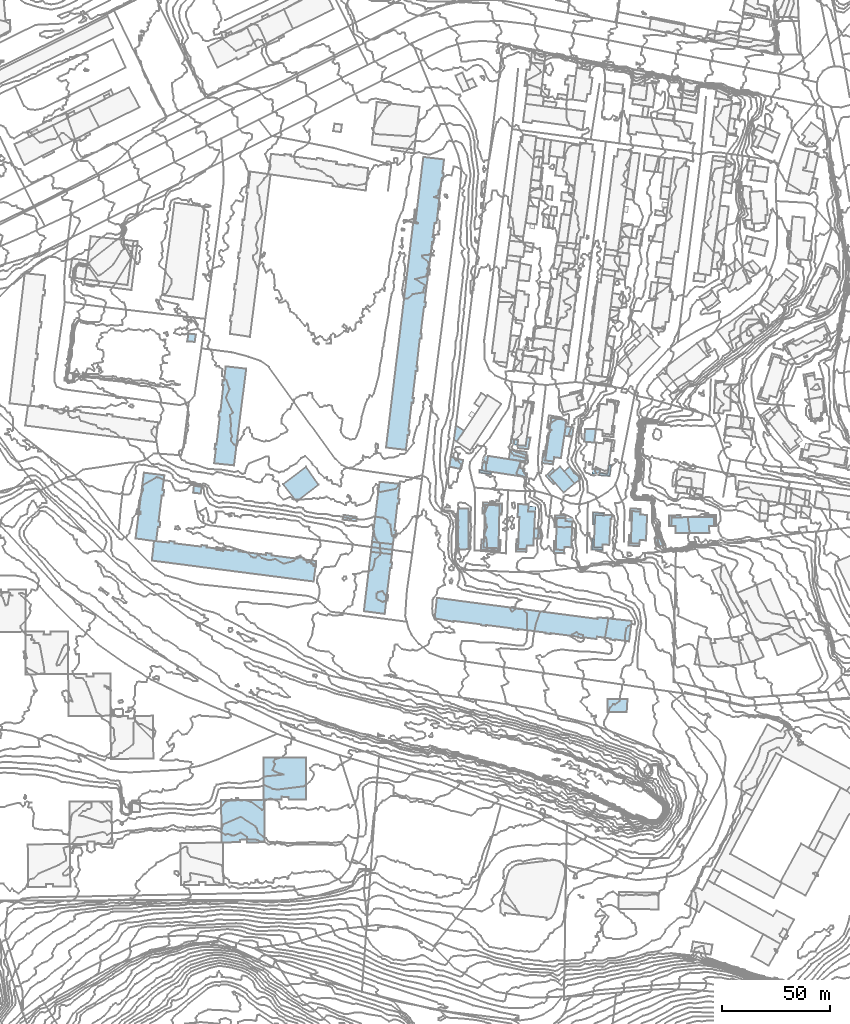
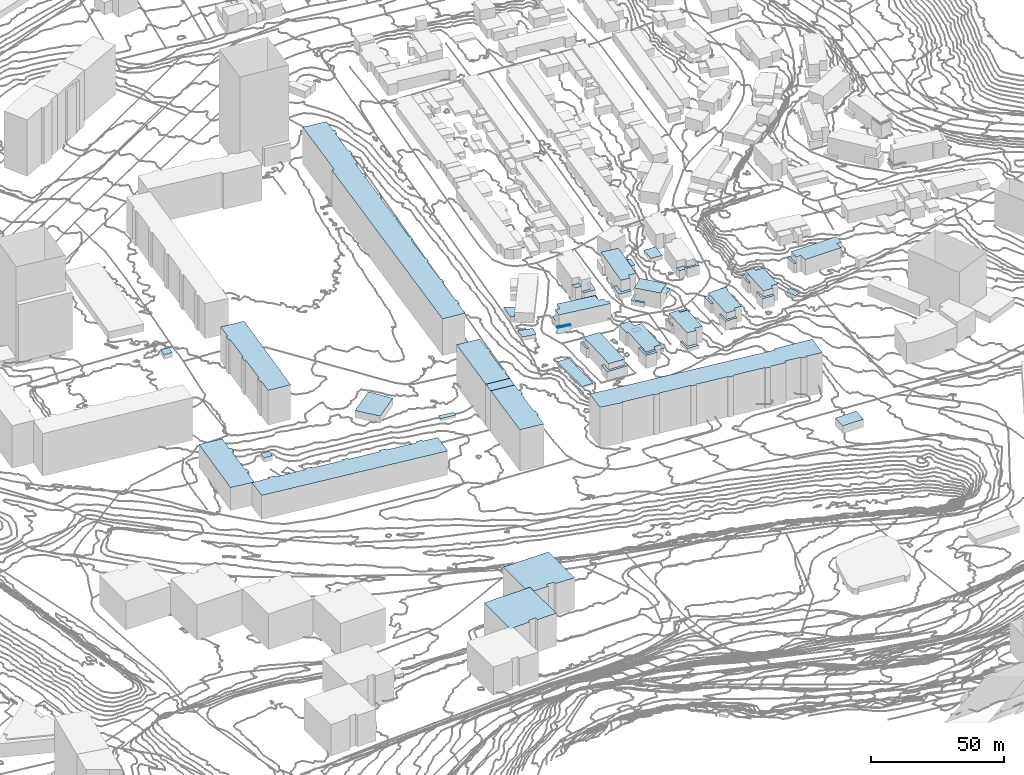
# Not in any storey, part 80 of 419: 53 roofs.
"""IFC2X3 model written with IfcOpenShell, lengths in metres."""

from ifc_helpers import new_model, si_unit, frame, origin_with_axes, place, context, subcontext, project, faceted_brep, element, save


model = new_model("IFC2X3")

# Units and contexts
model_context = context("Model", 3, precision=1e-05, world=origin_with_axes())
body_context = subcontext(model_context, "Body", "Model", "MODEL_VIEW")
ifc_project = project(units=[si_unit("AREAUNIT", "SQUARE_METRE"), si_unit("LENGTHUNIT", "METRE")], contexts=[model_context])

# Roofs
roof_1_placement = place(None, frame((531.4920204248, 540.9976909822, 34.6650009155), z_axis=(0.0, 0.0, 1.0), x_axis=(1.0, 0.0, 0.0)))
element("IfcRoof", 1, at=roof_1_placement, Name="Toiture 0", ShapeType="NOTDEFINED", context=body_context, shape_type="Brep", body=[
    faceted_brep([(0.1, 5.9000000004, 3.5349990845), (0.0, 0.0, 3.5349990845), (8.9, -0.0999999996, 3.5349990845), (9.2999999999, 5.9000000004, 3.5349990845)], [[[0, 1, 2]], [[2, 3, 0]]]),
])
roof_2_placement = place(None, frame((380.8920204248, 646.6976909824, 30.5800001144), z_axis=(0.0, 0.0, 1.0), x_axis=(1.0, 0.0, 0.0)))
element("IfcRoof", 2, at=roof_2_placement, Name="Toiture 0", ShapeType="NOTDEFINED", context=body_context, shape_type="Brep", body=[
    faceted_brep([(16.3999999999, -0.2000000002, 3.3199998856), (10.6, 8.1000000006, 3.3199998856), (0.0, 0.0, 3.3199998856), (6.3999999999, -8.0, 3.3199998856)], [[[0, 1, 2]], [[2, 3, 0]]]),
])
roof_3_placement = place(None, frame((487.0920204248, 667.5976909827, 35.5330013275), z_axis=(0.0, 0.0, 1.0), x_axis=(1.0, 0.0, 0.0)))
element("IfcRoof", 3, at=roof_3_placement, Name="Toiture 0", ShapeType="NOTDEFINED", context=body_context, shape_type="Brep", body=[
    faceted_brep([(0.1, -2.5, 6.1669986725), (2.6, -2.7999999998, 6.1669986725), (2.9, -0.4000000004, 6.1669986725), (0.0, 0.0, 6.1669986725)], [[[0, 1, 2]], [[2, 3, 0]]]),
])
roof_4_placement = place(None, frame((451.2920204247, 584.3976909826, 30.0220005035), z_axis=(0.0, 0.0, 1.0), x_axis=(1.0, 0.0, 0.0)))
element("IfcRoof", 4, at=roof_4_placement, Name="Toiture 0", ShapeType="NOTDEFINED", context=body_context, shape_type="Brep", body=[
    faceted_brep([(83.8, -9.7999999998, 18.4779994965), (90.2000000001, -10.7000000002, 18.4779994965), (91.4, -1.2000000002, 18.4779994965), (75.7000000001, 0.5, 18.4779994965), (75.7000000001, -0.2999999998, 18.4779994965), (1.0, 9.5, 18.4779994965), (0.0, 0.0, 18.4779994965), (8.7000000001, -1.5999999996, 18.4779994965), (8.8, -1.2000000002, 18.4779994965), (21.6000000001, -2.7999999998, 18.4779994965), (21.6000000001, -3.2000000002, 18.4779994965), (23.8, -3.5, 18.4779994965), (36.4, -4.7000000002, 18.4779994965), (36.4, -5.0999999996, 18.4779994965), (38.6000000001, -5.4000000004, 18.4779994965), (51.5, -6.5999999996, 18.4779994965), (51.5, -7.0, 18.4779994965), (53.7000000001, -7.2999999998, 18.4779994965), (66.5, -8.5, 18.4779994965), (66.5, -8.9000000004, 18.4779994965), (68.7000000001, -9.2000000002, 18.4779994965), (68.8, -8.7999999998, 18.4779994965), (75.1000000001, -9.5999999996, 18.4779994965), (75.3, -8.5, 18.4779994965), (81.6000000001, -9.4000000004, 18.4779994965), (81.5, -9.7999999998, 18.4779994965), (83.8, -10.2000000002, 18.4779994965), (23.9, -3.0999999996, 18.4779994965), (38.7000000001, -5.0, 18.4779994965), (53.8, -6.9000000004, 18.4779994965)], [[[0, 1, 2]], [[2, 3, 4]], [[4, 5, 6]], [[6, 7, 8]], [[9, 10, 11]], [[12, 13, 14]], [[15, 16, 17]], [[18, 19, 20]], [[21, 22, 23]], [[24, 25, 26]], [[0, 2, 4]], [[4, 6, 8]], [[9, 11, 27]], [[12, 14, 28]], [[15, 17, 29]], [[18, 20, 21]], [[24, 26, 0]], [[4, 8, 9]], [[9, 27, 12]], [[12, 28, 15]], [[15, 29, 18]], [[18, 21, 23]], [[24, 0, 4]], [[4, 9, 12]], [[15, 18, 23]], [[23, 24, 4]], [[4, 12, 15]], [[15, 23, 4]]]),
])
roof_5_placement = place(None, frame((511.9920204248, 629.4976909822, 37.3230004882), z_axis=(0.0, 0.0, 1.0), x_axis=(1.0, 0.0, 0.0)))
element("IfcRoof", 5, at=roof_5_placement, Name="Toiture 0", ShapeType="NOTDEFINED", context=body_context, shape_type="Brep", body=[
    faceted_brep([(0.0, 0.0, 5.9769995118), (3.2, -0.0999999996, 5.9769995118), (3.4, 1.5, 5.9769995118), (0.0, 1.5, 5.9769995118)], [[[0, 1, 2]], [[2, 3, 0]]]),
])
roof_6_placement = place(None, frame((418.3920204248, 587.6976909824, 28.7110006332), z_axis=(0.0, 0.0, 1.0), x_axis=(1.0, 0.0, 0.0)))
element("IfcRoof", 6, at=roof_6_placement, Name="Toiture 0", ShapeType="NOTDEFINED", context=body_context, shape_type="Brep", body=[
    faceted_brep([(13.0, 26.4000000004, 18.9889993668), (3.2999999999, 27.6000000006, 18.9889993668), (0.0, 0.0, 18.9889993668), (9.7, -1.2000000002, 18.9889993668), (10.3999999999, 5.1000000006, 18.9889993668), (11.0, 5.0, 18.9889993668), (11.2999999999, 7.6000000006, 18.9889993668), (12.2, 20.1000000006, 18.9889993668), (12.7999999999, 20.1000000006, 18.9889993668), (13.1, 22.6000000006, 18.9889993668), (12.5, 22.7000000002, 18.9889993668), (10.7, 7.6000000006, 18.9889993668)], [[[0, 1, 2]], [[2, 3, 4]], [[4, 5, 6]], [[7, 8, 9]], [[10, 0, 2]], [[2, 4, 6]], [[7, 9, 10]], [[2, 6, 11]], [[11, 7, 10]], [[10, 2, 11]]]),
])
roof_7_placement = place(None, frame((561.0920204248, 627.1976909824, 45.709199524), z_axis=(0.0, 0.0, 1.0), x_axis=(1.0, 0.0, 0.0)))
element("IfcRoof", 7, at=roof_7_placement, Name="Toiture 0", ShapeType="NOTDEFINED", context=body_context, shape_type="Brep", body=[
    faceted_brep([(0.1, 4.1000000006, 7.290800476), (0.0, 0.0, 7.290800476), (2.0, 0.1000000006, 7.290800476), (2.1, -3.2000000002, 7.290800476), (17.7, -3.0999999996, 7.290800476), (17.6, 0.0, 7.290800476), (19.8, 0.0, 7.290800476), (19.8, 4.2000000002, 7.290800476)], [[[0, 1, 2]], [[2, 3, 4]], [[5, 6, 7]], [[7, 0, 2]], [[2, 4, 5]], [[5, 7, 2]]]),
])
roof_8_placement = place(None, frame((542.2920204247, 619.2976909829, 41.3799995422), z_axis=(0.0, 0.0, 1.0), x_axis=(1.0, 0.0, 0.0)))
element("IfcRoof", 8, at=roof_8_placement, Name="Toiture 0", ShapeType="NOTDEFINED", context=body_context, shape_type="Brep", body=[
    faceted_brep([(0.0, 0.0, 7.4200004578), (4.0, -0.2000000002, 7.4200004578), (4.2000000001, 1.5, 7.4200004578), (7.1000000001, 1.2999999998, 7.4200004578), (7.6000000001, 13.0999999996, 7.4200004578), (4.4, 13.2999999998, 7.4200004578), (4.5, 14.5999999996, 7.4200004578), (0.7000000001, 14.8999999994, 7.4200004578)], [[[0, 1, 2]], [[2, 3, 4]], [[5, 6, 7]], [[7, 0, 2]], [[2, 4, 5]], [[5, 7, 2]]]),
])
roof_9_placement = place(None, frame((502.8920204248, 650.6976909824, 37.2302006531), z_axis=(0.0, 0.0, 1.0), x_axis=(1.0, 0.0, 0.0)))
element("IfcRoof", 9, at=roof_9_placement, Name="Toiture 0", ShapeType="NOTDEFINED", context=body_context, shape_type="Brep", body=[
    faceted_brep([(1.3999999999, -0.0999999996, 1.9697993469), (4.0, 2.2999999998, 1.9697993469), (3.3999999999, 3.2000000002, 1.9697993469), (0.0, 0.0, 1.9697993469), (3.5, -4.0, 1.9697993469), (4.2, -3.5, 1.9697993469)], [[[0, 1, 2]], [[3, 4, 5]], [[0, 2, 3]], [[3, 5, 0]]]),
])
roof_10_placement = place(None, frame((489.6920204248, 664.7976909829, 36.5316988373), z_axis=(0.0, 0.0, 1.0), x_axis=(1.0, 0.0, 0.0)))
element("IfcRoof", 10, at=roof_10_placement, Name="Toiture 0", ShapeType="NOTDEFINED", context=body_context, shape_type="Brep", body=[
    faceted_brep([(3.8, -0.3000000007, 2.9683011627), (0.0, 0.0, 2.9683011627), (0.3, -1.4000000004, 2.9683011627), (5.0, -1.9000000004, 2.9683011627), (6.0, 3.5, 2.9683011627), (4.4, 3.6999999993, 2.9683011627)], [[[0, 1, 2]], [[3, 4, 5]], [[0, 2, 3]], [[3, 5, 0]]]),
])
roof_11_placement = place(None, frame((541.2920204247, 618.1976909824, 41.4967990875), z_axis=(0.0, 0.0, 1.0), x_axis=(1.0, 0.0, 0.0)))
element("IfcRoof", 11, at=roof_11_placement, Name="Toiture 0", ShapeType="NOTDEFINED", context=body_context, shape_type="Brep", body=[
    faceted_brep([(4.9, -0.2999999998, 4.7032009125), (5.0, 0.9000000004, 4.7032009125), (1.0, 1.1000000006, 4.7032009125), (1.0, 5.0, 4.7032009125), (0.2000000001, 5.0, 4.7032009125), (0.0, 0.0, 4.7032009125)], [[[0, 1, 2]], [[2, 3, 4]], [[5, 0, 2]], [[2, 4, 5]]]),
])
roof_12_placement = place(None, frame((458.0920204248, 654.7976909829, 33.89060112), z_axis=(0.0, 0.0, 1.0), x_axis=(1.0, 0.0, 0.0)))
element("IfcRoof", 12, at=roof_12_placement, Name="Toiture 0", ShapeType="NOTDEFINED", context=body_context, shape_type="Brep", body=[
    faceted_brep([(0.7, 4.5, 1.70939888), (0.0, 0.0, 1.70939888), (5.5, -1.1000000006, 1.70939888), (6.4, 3.0, 1.70939888)], [[[0, 1, 2]], [[2, 3, 0]]]),
])
roof_13_placement = place(None, frame((524.0920204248, 616.2976909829, 38.8784992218), z_axis=(0.0, 0.0, 1.0), x_axis=(1.0, 0.0, 0.0)))
element("IfcRoof", 13, at=roof_13_placement, Name="Toiture 0", ShapeType="NOTDEFINED", context=body_context, shape_type="Brep", body=[
    faceted_brep([(5.0, -0.1000000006, 4.1215007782), (5.0, 1.0, 4.1215007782), (1.0, 1.0999999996, 4.1215007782), (1.2, 5.0999999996, 4.1215007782), (0.3, 5.1999999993, 4.1215007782), (0.0, 0.0, 4.1215007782)], [[[0, 1, 2]], [[2, 3, 4]], [[5, 0, 2]], [[2, 4, 5]]]),
])
roof_14_placement = place(None, frame((541.7920204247, 629.8976909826, 41.3649997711), z_axis=(0.0, 0.0, 1.0), x_axis=(1.0, 0.0, 0.0)))
element("IfcRoof", 14, at=roof_14_placement, Name="Toiture 0", ShapeType="NOTDEFINED", context=body_context, shape_type="Brep", body=[
    faceted_brep([(1.2000000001, 4.2999999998, 4.8350002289), (5.0, 4.0, 4.8350002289), (5.1000000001, 5.2999999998, 4.8350002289), (0.3, 5.5, 4.8350002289), (0.0, 0.0, 4.8350002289), (0.9, -0.2000000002, 4.8350002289)], [[[0, 1, 2]], [[3, 4, 5]], [[0, 2, 3]], [[3, 5, 0]]]),
])
roof_15_placement = place(None, frame((336.3920204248, 712.9976909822, 32.726300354), z_axis=(0.0, 0.0, 1.0), x_axis=(1.0, 0.0, 0.0)))
element("IfcRoof", 15, at=roof_15_placement, Name="Toiture 0", ShapeType="NOTDEFINED", context=body_context, shape_type="Brep", body=[
    faceted_brep([(0.6, 3.6000000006, 2.073699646), (0.0, 0.0, 2.073699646), (3.5, -0.2999999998, 2.073699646), (4.0, 3.2000000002, 2.073699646)], [[[0, 1, 2]], [[2, 3, 0]]]),
])
roof_16_placement = place(None, frame((489.0920204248, 615.4976909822, 34.1513998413), z_axis=(0.0, 0.0, 1.0), x_axis=(1.0, 0.0, 0.0)))
element("IfcRoof", 16, at=roof_16_placement, Name="Toiture 0", ShapeType="NOTDEFINED", context=body_context, shape_type="Brep", body=[
    faceted_brep([(0.9, 1.2000000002, 5.9486001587), (1.1, 5.8000000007, 5.9486001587), (0.1, 5.6000000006, 5.9486001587), (0.0, 0.0, 5.9486001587), (4.7, -0.1999999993, 5.9486001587), (4.8, 1.1000000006, 5.9486001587)], [[[0, 1, 2]], [[3, 4, 5]], [[0, 2, 3]], [[3, 5, 0]]]),
])
roof_17_placement = place(None, frame((485.6920204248, 658.2976909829, 34.2639987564), z_axis=(0.0, 0.0, 1.0), x_axis=(1.0, 0.0, 0.0)))
element("IfcRoof", 17, at=roof_17_placement, Name="Toiture 0", ShapeType="NOTDEFINED", context=body_context, shape_type="Brep", body=[
    faceted_brep([(0.7000000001, 4.3999999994, 3.9360012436), (0.0, 0.0, 3.9360012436), (7.6, -1.0, 3.9360012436), (8.3, 3.2999999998, 3.9360012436)], [[[0, 1, 2]], [[2, 3, 0]]]),
])
roof_18_placement = place(None, frame((520.6920204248, 666.3976909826, 40.8299991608), z_axis=(0.0, 0.0, 1.0), x_axis=(1.0, 0.0, 0.0)))
element("IfcRoof", 18, at=roof_18_placement, Name="Toiture 0", ShapeType="NOTDEFINED", context=body_context, shape_type="Brep", body=[
    faceted_brep([(4.7000000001, -0.4000000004, 1.8700008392), (5.4, 5.9000000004, 1.8700008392), (0.4, 6.0, 1.8700008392), (0.0, 0.0, 1.8700008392)], [[[0, 1, 2]], [[2, 3, 0]]]),
])
roof_19_placement = place(None, frame((524.3920204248, 651.4976909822, 40.9319988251), z_axis=(0.0, 0.0, 1.0), x_axis=(1.0, 0.0, 0.0)))
element("IfcRoof", 19, at=roof_19_placement, Name="Toiture 0", ShapeType="NOTDEFINED", context=body_context, shape_type="Brep", body=[
    faceted_brep([(2.7, 0.8000000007, 3.8680011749), (3.5, 0.5, 3.8680011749), (3.6, 1.9000000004, 3.8680011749), (0.1, 2.3000000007, 3.8680011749), (0.0, 0.0, 3.8680011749), (2.3999999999, -0.1999999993, 3.8680011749)], [[[0, 1, 2]], [[2, 3, 4]], [[4, 5, 0]], [[0, 2, 4]]]),
])
roof_20_placement = place(None, frame((511.4920204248, 669.1976909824, 37.2300003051), z_axis=(0.0, 0.0, 1.0), x_axis=(1.0, 0.0, 0.0)))
element("IfcRoof", 20, at=roof_20_placement, Name="Toiture 0", ShapeType="NOTDEFINED", context=body_context, shape_type="Brep", body=[
    faceted_brep([(4.2, 3.7999999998, 3.0699996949), (0.6, 4.4000000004, 3.0699996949), (0.0, 0.0, 3.0699996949), (3.6, -0.5, 3.0699996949)], [[[0, 1, 2]], [[2, 3, 0]]]),
])
roof_21_placement = place(None, frame((507.4920204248, 616.3976909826, 36.2219997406), z_axis=(0.0, 0.0, 1.0), x_axis=(1.0, 0.0, 0.0)))
element("IfcRoof", 21, at=roof_21_placement, Name="Toiture 0", ShapeType="NOTDEFINED", context=body_context, shape_type="Brep", body=[
    faceted_brep([(7.2, 0.9000000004, 7.2780002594), (7.7, 13.0, 7.2780002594), (4.5, 13.0999999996, 7.2780002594), (4.5, 14.5999999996, 7.2780002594), (0.5, 14.5999999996, 7.2780002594), (0.0, 0.0, 7.2780002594), (3.7999999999, -0.4000000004, 7.2780002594), (4.1, 1.2000000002, 7.2780002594)], [[[0, 1, 2]], [[2, 3, 4]], [[4, 5, 6]], [[7, 0, 2]], [[2, 4, 6]], [[6, 7, 2]]]),
])
roof_22_placement = place(None, frame((501.0920204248, 656.4976909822, 36.9775999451), z_axis=(0.0, 0.0, 1.0), x_axis=(1.0, 0.0, 0.0)))
element("IfcRoof", 22, at=roof_22_placement, Name="Toiture 0", ShapeType="NOTDEFINED", context=body_context, shape_type="Brep", body=[
    faceted_brep([(5.1, -0.5999999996, 2.2224000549), (5.3, 0.7000000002, 2.2224000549), (1.5, 1.2000000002, 2.2224000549), (2.1, 5.4000000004, 2.2224000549), (0.7, 5.6000000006, 2.2224000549), (0.0, 0.0, 2.2224000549)], [[[0, 1, 2]], [[2, 3, 4]], [[5, 0, 2]], [[2, 4, 5]]]),
])
roof_23_placement = place(None, frame((473.4920204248, 633.0976909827, 33.7929993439), z_axis=(0.0, 0.0, 1.0), x_axis=(1.0, 0.0, 0.0)))
element("IfcRoof", 23, at=roof_23_placement, Name="Toiture 0", ShapeType="NOTDEFINED", context=body_context, shape_type="Brep", body=[
    faceted_brep([(0.0, 0.0, 4.2070006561), (1.0, 0.0, 4.2070006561), (1.1, 4.0, 4.2070006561), (7.9, 3.7000000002, 4.2070006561), (7.7999999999, -0.4000000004, 4.2070006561), (8.9, -0.4000000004, 4.2070006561), (0.2, 5.0999999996, 4.2070006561), (9.1, 4.5, 4.2070006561)], [[[0, 1, 2]], [[3, 4, 5]], [[6, 0, 2]], [[3, 5, 7]], [[7, 6, 2]], [[2, 3, 7]]]),
])
roof_24_placement = place(None, frame((472.6920204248, 616.0976909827, 33.9259983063), z_axis=(0.0, 0.0, 1.0), x_axis=(1.0, 0.0, 0.0)))
element("IfcRoof", 24, at=roof_24_placement, Name="Toiture 0", ShapeType="NOTDEFINED", context=body_context, shape_type="Brep", body=[
    faceted_brep([(1.2000000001, 1.0999999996, 4.0740016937), (1.5, 5.0, 4.0740016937), (0.4, 5.0, 4.0740016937), (8.9, -0.2999999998, 4.0740016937), (9.2000000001, 4.7000000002, 4.0740016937), (8.4, 4.7000000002, 4.0740016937), (0.0, 0.0, 4.0740016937), (8.2000000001, 0.7999999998, 4.0740016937)], [[[0, 1, 2]], [[3, 4, 5]], [[0, 2, 6]], [[3, 5, 7]], [[7, 0, 6]], [[6, 3, 7]]]),
])
roof_25_placement = place(None, frame((460.1920204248, 667.2976909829, 34.0620014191), z_axis=(0.0, 0.0, 1.0), x_axis=(1.0, 0.0, 0.0)))
element("IfcRoof", 25, at=roof_25_placement, Name="Toiture 0", ShapeType="NOTDEFINED", context=body_context, shape_type="Brep", body=[
    faceted_brep([(4.7000000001, 4.1999999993, 2.7379985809), (0.9, 6.6999999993, 2.7379985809), (0.0, 0.0, 2.7379985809), (1.3, -0.9000000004, 2.7379985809)], [[[0, 1, 2]], [[2, 3, 0]]]),
])
roof_26_placement = place(None, frame((421.6920204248, 615.2976909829, 28.7110006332), z_axis=(0.0, 0.0, 1.0), x_axis=(1.0, 0.0, 0.0)))
element("IfcRoof", 26, at=roof_26_placement, Name="Toiture 0", ShapeType="NOTDEFINED", context=body_context, shape_type="Brep", body=[
    faceted_brep([(0.5, 4.5999999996, 18.9889993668), (0.0, 0.0, 18.9889993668), (9.7000000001, -1.2000000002, 18.9889993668), (10.2000000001, 3.5, 18.9889993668)], [[[0, 1, 2]], [[2, 3, 0]]]),
])
roof_27_placement = place(None, frame((511.3920204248, 652.6976909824, 37.4983989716), z_axis=(0.0, 0.0, 1.0), x_axis=(1.0, 0.0, 0.0)))
element("IfcRoof", 27, at=roof_27_placement, Name="Toiture 0", ShapeType="NOTDEFINED", context=body_context, shape_type="Brep", body=[
    faceted_brep([(2.6, 2.4000000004, 2.2016010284), (0.0, 0.0, 2.2016010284), (4.8999999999, -5.5999999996, 2.2016010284), (8.1, -3.2999999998, 2.2016010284)], [[[0, 1, 2]], [[2, 3, 0]]]),
])
roof_28_placement = place(None, frame((497.2920204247, 621.4976909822, 34.3826002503), z_axis=(0.0, 0.0, 1.0), x_axis=(1.0, 0.0, 0.0)))
element("IfcRoof", 28, at=roof_28_placement, Name="Toiture 0", ShapeType="NOTDEFINED", context=body_context, shape_type="Brep", body=[
    faceted_brep([(3.2000000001, 4.5, 1.5173997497), (0.2000000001, 4.5, 1.5173997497), (0.0, 0.0, 1.5173997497), (3.1000000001, -0.0999999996, 1.5173997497)], [[[0, 1, 2]], [[2, 3, 0]]]),
])
roof_29_placement = place(None, frame((422.1920204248, 619.8976909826, 28.7740003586), z_axis=(0.0, 0.0, 1.0), x_axis=(1.0, 0.0, 0.0)))
element("IfcRoof", 29, at=roof_29_placement, Name="Toiture 0", ShapeType="NOTDEFINED", context=body_context, shape_type="Brep", body=[
    faceted_brep([(3.5, 27.9000000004, 18.9259996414), (0.0, 0.0, 18.9259996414), (9.7000000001, -1.0999999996, 18.9259996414), (10.2000000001, 3.0999999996, 18.9259996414), (10.8, 3.0, 18.9259996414), (11.1, 5.2999999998, 18.9259996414), (11.8, 17.7999999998, 18.9259996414), (12.5, 17.7000000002, 18.9259996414), (12.7000000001, 20.0, 18.9259996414), (12.1, 20.0999999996, 18.9259996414), (12.9, 26.9000000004, 18.9259996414), (10.4, 5.4000000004, 18.9259996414)], [[[0, 1, 2]], [[3, 4, 5]], [[6, 7, 8]], [[9, 10, 0]], [[0, 2, 3]], [[3, 5, 11]], [[6, 8, 9]], [[0, 3, 11]], [[6, 9, 0]], [[0, 11, 6]]]),
])
roof_30_placement = place(None, frame((312.3920204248, 621.4976909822, 27.3139995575), z_axis=(0.0, 0.0, 1.0), x_axis=(1.0, 0.0, 0.0)))
element("IfcRoof", 30, at=roof_30_placement, Name="Toiture 0", ShapeType="NOTDEFINED", context=body_context, shape_type="Brep", body=[
    faceted_brep([(0.0, 0.0, 10.4860004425), (8.6, -1.1999999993, 10.4860004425), (9.6, -1.1999999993, 10.4860004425), (10.3999999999, 5.3000000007, 10.4860004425), (11.2, 5.2000000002, 10.4860004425), (11.5, 7.7000000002, 10.4860004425), (12.2, 20.0, 10.4860004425), (13.0, 19.9000000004, 10.4860004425), (13.2999999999, 22.4000000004, 10.4860004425), (12.5, 22.5, 10.4860004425), (13.3999999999, 29.3000000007, 10.4860004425), (3.8999999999, 30.5, 10.4860004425), (10.7, 7.8000000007, 10.4860004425)], [[[0, 1, 2]], [[3, 4, 5]], [[6, 7, 8]], [[9, 10, 11]], [[11, 0, 2]], [[3, 5, 12]], [[6, 8, 9]], [[11, 2, 3]], [[12, 6, 9]], [[11, 3, 12]], [[12, 9, 11]]]),
])
roof_31_placement = place(None, frame((339.1920204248, 642.6976909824, 27.2629993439), z_axis=(0.0, 0.0, 1.0), x_axis=(1.0, 0.0, 0.0)))
element("IfcRoof", 31, at=roof_31_placement, Name="Toiture 0", ShapeType="NOTDEFINED", context=body_context, shape_type="Brep", body=[
    faceted_brep([(0.0, 0.0, 1.9370006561), (3.5, -0.3999999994, 1.9370006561), (3.9, 2.7999999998, 1.9370006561), (0.3, 3.2000000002, 1.9370006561)], [[[0, 1, 2]], [[2, 3, 0]]]),
])
roof_32_placement = place(None, frame((524.6920204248, 628.1976909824, 39.2345994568), z_axis=(0.0, 0.0, 1.0), x_axis=(1.0, 0.0, 0.0)))
element("IfcRoof", 32, at=roof_32_placement, Name="Toiture 0", ShapeType="NOTDEFINED", context=body_context, shape_type="Brep", body=[
    faceted_brep([(1.1, 4.2000000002, 4.4654005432), (5.1, 4.0, 4.4654005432), (5.1, 5.0, 4.4654005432), (0.1, 5.4000000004, 4.4654005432), (0.0, 0.0, 4.4654005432), (0.9, -0.0999999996, 4.4654005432)], [[[0, 1, 2]], [[3, 4, 5]], [[0, 2, 3]], [[3, 5, 0]]]),
])
roof_33_placement = place(None, frame((506.9920204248, 626.8976909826, 36.8540000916), z_axis=(0.0, 0.0, 1.0), x_axis=(1.0, 0.0, 0.0)))
element("IfcRoof", 33, at=roof_33_placement, Name="Toiture 0", ShapeType="NOTDEFINED", context=body_context, shape_type="Brep", body=[
    faceted_brep([(1.0, 4.0999999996, 3.6459999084), (5.0, 4.0999999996, 3.6459999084), (5.1, 5.2000000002, 3.6459999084), (0.1, 5.2000000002, 3.6459999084), (0.0, 0.0, 3.6459999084), (0.7999999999, 0.0, 3.6459999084)], [[[0, 1, 2]], [[3, 4, 5]], [[0, 2, 3]], [[3, 5, 0]]]),
])
roof_34_placement = place(None, frame((494.5920204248, 633.9976909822, 34.3430002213), z_axis=(0.0, 0.0, 1.0), x_axis=(1.0, 0.0, 0.0)))
element("IfcRoof", 34, at=roof_34_placement, Name="Toiture 0", ShapeType="NOTDEFINED", context=body_context, shape_type="Brep", body=[
    faceted_brep([(3.5, 2.3000000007, 3.1569997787), (0.3, 2.6000000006, 3.1569997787), (0.0, 0.0, 3.1569997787), (3.3, -0.0999999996, 3.1569997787)], [[[0, 1, 2]], [[2, 3, 0]]]),
])
roof_35_placement = place(None, frame((473.5920204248, 656.7976909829, 33.9599990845), z_axis=(0.0, 0.0, 1.0), x_axis=(1.0, 0.0, 0.0)))
element("IfcRoof", 35, at=roof_35_placement, Name="Toiture 0", ShapeType="NOTDEFINED", context=body_context, shape_type="Brep", body=[
    faceted_brep([(0.6, 3.0, 2.5400009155), (0.0, 0.0, 2.5400009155), (1.9, -0.2000000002, 2.5400009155), (2.5, 3.0, 2.5400009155)], [[[0, 1, 2]], [[2, 3, 0]]]),
])
roof_36_placement = place(None, frame((527.3920204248, 650.8976909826, 40.7847005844), z_axis=(0.0, 0.0, 1.0), x_axis=(1.0, 0.0, 0.0)))
element("IfcRoof", 36, at=roof_36_placement, Name="Toiture 0", ShapeType="NOTDEFINED", context=body_context, shape_type="Brep", body=[
    faceted_brep([(4.1, 0.5999999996, 4.4152994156), (0.5, 1.0999999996, 4.4152994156), (0.0, 0.0, 4.4152994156), (5.1, -0.4000000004, 4.4152994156), (5.7999999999, 4.7000000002, 4.4152994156), (4.7999999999, 4.7999999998, 4.4152994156)], [[[0, 1, 2]], [[3, 4, 5]], [[0, 2, 3]], [[3, 5, 0]]]),
])
roof_37_placement = place(None, frame((471.9920204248, 652.0976909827, 33.9270000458), z_axis=(0.0, 0.0, 1.0), x_axis=(1.0, 0.0, 0.0)))
element("IfcRoof", 37, at=roof_37_placement, Name="Toiture 0", ShapeType="NOTDEFINED", context=body_context, shape_type="Brep", body=[
    faceted_brep([(5.4, 0.0999999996, 2.5729999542), (1.1, 1.0, 2.5729999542), (0.1, 1.0999999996, 2.5729999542), (0.0, 0.0, 2.5729999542), (5.4, -0.7999999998, 2.5729999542)], [[[0, 1, 2]], [[2, 3, 4]], [[4, 0, 2]]]),
])
roof_38_placement = place(None, frame((462.0920204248, 616.3976909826, 34.0100002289), z_axis=(0.0, 0.0, 1.0), x_axis=(1.0, 0.0, 0.0)))
element("IfcRoof", 38, at=roof_38_placement, Name="Toiture 0", ShapeType="NOTDEFINED", context=body_context, shape_type="Brep", body=[
    faceted_brep([(4.9, 18.9000000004, 0.6899997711), (0.0, 19.0, 0.6899997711), (0.0, 0.0, 0.6899997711), (4.8, 0.0999999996, 0.6899997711)], [[[0, 1, 2]], [[2, 3, 0]]]),
])
roof_39_placement = place(None, frame((553.3920204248, 621.4976909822, 42.1348006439), z_axis=(0.0, 0.0, 1.0), x_axis=(1.0, 0.0, 0.0)))
element("IfcRoof", 39, at=roof_39_placement, Name="Toiture 0", ShapeType="NOTDEFINED", context=body_context, shape_type="Brep", body=[
    faceted_brep([(2.6, 1.2000000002, 1.0651993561), (0.0, 0.0, 1.0651993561), (1.7, -4.0, 1.0651993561), (4.2, -3.0, 1.0651993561)], [[[0, 1, 2]], [[2, 3, 0]]]),
])
roof_40_placement = place(None, frame((352.1920204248, 499.9976909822, 29.8795999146), z_axis=(0.0, 0.0, 1.0), x_axis=(1.0, 0.0, 0.0)))
element("IfcRoof", 40, at=roof_40_placement, Name="Toiture 0", ShapeType="NOTDEFINED", context=body_context, shape_type="Brep", body=[
    faceted_brep([(19.6, 0.2000000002, 14.8204000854), (0.0, 0.0, 14.8204000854), (0.1, -19.6999999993, 14.8204000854), (8.7000000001, -19.3999999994, 14.8204000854), (8.7000000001, -18.3999999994, 14.8204000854), (11.8, -18.1999999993, 14.8204000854), (12.0, -19.5999999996, 14.8204000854), (20.2000000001, -19.5, 14.8204000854), (20.1, 0.3000000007, 14.8204000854)], [[[0, 1, 2]], [[2, 3, 4]], [[5, 6, 7]], [[7, 8, 0]], [[0, 2, 4]], [[5, 7, 0]], [[0, 4, 5]]]),
])
roof_41_placement = place(None, frame((371.7920204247, 500.1976909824, 27.8021002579), z_axis=(0.0, 0.0, 1.0), x_axis=(1.0, 0.0, 0.0)))
element("IfcRoof", 41, at=roof_41_placement, Name="Toiture 0", ShapeType="NOTDEFINED", context=body_context, shape_type="Brep", body=[
    faceted_brep([(11.7000000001, 1.2999999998, 14.4978997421), (11.8, 0.2000000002, 14.4978997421), (19.8, 0.0, 14.4978997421), (19.8, 19.6000000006, 14.4978997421), (0.1000000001, 19.5, 14.4978997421), (0.0, 0.0, 14.4978997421), (8.5, 0.1000000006, 14.4978997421), (8.4, 1.4000000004, 14.4978997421)], [[[0, 1, 2]], [[2, 3, 4]], [[4, 5, 6]], [[0, 2, 4]], [[4, 6, 7]], [[7, 0, 4]]]),
])
roof_42_placement = place(None, frame((506.6920204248, 614.7976909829, 36.0124001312), z_axis=(0.0, 0.0, 1.0), x_axis=(1.0, 0.0, 0.0)))
element("IfcRoof", 42, at=roof_42_placement, Name="Toiture 0", ShapeType="NOTDEFINED", context=body_context, shape_type="Brep", body=[
    faceted_brep([(4.9, -0.2000000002, 1.4875998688), (4.6, 1.1999999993, 1.4875998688), (0.8, 1.5999999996, 1.4875998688), (0.9, 5.2999999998, 1.4875998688), (0.0, 5.3999999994, 1.4875998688), (0.0, 0.0, 1.4875998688)], [[[0, 1, 2]], [[2, 3, 4]], [[5, 0, 2]], [[2, 4, 5]]]),
])
roof_43_placement = place(None, frame((473.8920204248, 617.1976909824, 33.9349990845), z_axis=(0.0, 0.0, 1.0), x_axis=(1.0, 0.0, 0.0)))
element("IfcRoof", 43, at=roof_43_placement, Name="Toiture 0", ShapeType="NOTDEFINED", context=body_context, shape_type="Brep", body=[
    faceted_brep([(0.2999999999, 3.9000000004, 6.6650009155), (0.0, 0.0, 6.6650009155), (7.0, -0.2999999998, 6.6650009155), (7.5, 19.6000000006, 6.6650009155), (0.7, 19.9000000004, 6.6650009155)], [[[0, 1, 2]], [[2, 3, 4]], [[4, 0, 2]]]),
])
roof_44_placement = place(None, frame((408.5920204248, 630.1976909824, 29.3080005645), z_axis=(0.0, 0.0, 1.0), x_axis=(1.0, 0.0, 0.0)))
element("IfcRoof", 44, at=roof_44_placement, Name="Toiture 0", ShapeType="NOTDEFINED", context=body_context, shape_type="Brep", body=[
    faceted_brep([(0.0, 0.0, 1.0919994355), (6.3, -0.7000000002, 1.0919994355), (6.4, 1.2999999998, 1.0919994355), (0.3, 2.2000000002, 1.0919994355)], [[[0, 1, 2]], [[2, 3, 0]]]),
])
roof_45_placement = place(None, frame((428.6920204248, 663.6976909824, 32.0109999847), z_axis=(0.0, 0.0, 1.0), x_axis=(1.0, 0.0, 0.0)))
element("IfcRoof", 45, at=roof_45_placement, Name="Toiture 0", ShapeType="NOTDEFINED", context=body_context, shape_type="Brep", body=[
    faceted_brep([(26.2000000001, 127.4000000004, 16.8890000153), (26.9, 133.7000000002, 16.8890000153), (17.3, 134.9000000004, 16.8890000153), (13.7000000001, 105.0, 16.8890000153), (12.7000000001, 105.1000000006, 16.8890000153), (0.0, 0.0, 16.8890000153), (9.2000000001, -1.0999999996, 16.8890000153), (10.1, 5.7999999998, 16.8890000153), (10.7000000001, 5.7000000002, 16.8890000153), (11.0, 8.0, 16.8890000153), (11.9, 20.7999999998, 16.8890000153), (12.6, 20.7000000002, 16.8890000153), (12.9, 22.9000000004, 16.8890000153), (13.8, 35.5, 16.8890000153), (14.5, 35.4000000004, 16.8890000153), (14.7000000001, 37.7000000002, 16.8890000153), (15.7000000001, 50.7000000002, 16.8890000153), (16.4, 50.6000000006, 16.8890000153), (16.6, 52.7999999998, 16.8890000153), (17.6, 65.2999999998, 16.8890000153), (18.2000000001, 65.2000000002, 16.8890000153), (18.5, 67.4000000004, 16.8890000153), (19.5, 80.4000000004, 16.8890000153), (20.1, 80.2999999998, 16.8890000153), (20.4, 82.6000000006, 16.8890000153), (21.4, 95.4000000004, 16.8890000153), (22.0, 95.2999999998, 16.8890000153), (22.3, 97.6000000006, 16.8890000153), (22.5, 104.2000000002, 16.8890000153), (23.4, 104.1000000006, 16.8890000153), (24.2000000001, 110.5, 16.8890000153), (24.8, 110.5, 16.8890000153), (25.1, 112.7000000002, 16.8890000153), (25.9, 125.1000000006, 16.8890000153), (26.5, 125.1000000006, 16.8890000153), (26.8, 127.2999999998, 16.8890000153), (10.4, 8.0, 16.8890000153), (12.3, 23.0, 16.8890000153), (14.2000000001, 37.7000000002, 16.8890000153), (16.1, 52.9000000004, 16.8890000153), (17.9, 67.5, 16.8890000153), (19.9, 82.6000000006, 16.8890000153), (21.7000000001, 97.6000000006, 16.8890000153), (24.4, 112.7999999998, 16.8890000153)], [[[0, 1, 2]], [[3, 4, 5]], [[5, 6, 7]], [[7, 8, 9]], [[10, 11, 12]], [[13, 14, 15]], [[16, 17, 18]], [[19, 20, 21]], [[22, 23, 24]], [[25, 26, 27]], [[28, 29, 30]], [[30, 31, 32]], [[33, 34, 35]], [[0, 2, 3]], [[3, 5, 7]], [[7, 9, 36]], [[10, 12, 37]], [[13, 15, 38]], [[16, 18, 39]], [[19, 21, 40]], [[22, 24, 41]], [[25, 27, 42]], [[30, 32, 43]], [[33, 35, 0]], [[3, 7, 36]], [[10, 37, 13]], [[13, 38, 16]], [[16, 39, 19]], [[19, 40, 22]], [[22, 41, 25]], [[25, 42, 28]], [[28, 30, 43]], [[33, 0, 3]], [[3, 36, 10]], [[10, 13, 16]], [[16, 19, 22]], [[22, 25, 28]], [[28, 43, 33]], [[3, 10, 16]], [[16, 22, 28]], [[28, 33, 3]], [[3, 16, 28]]]),
])
roof_46_placement = place(None, frame((489.7920204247, 631.4976909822, 34.2568003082), z_axis=(0.0, 0.0, 1.0), x_axis=(1.0, 0.0, 0.0)))
element("IfcRoof", 46, at=roof_46_placement, Name="Toiture 0", ShapeType="NOTDEFINED", context=body_context, shape_type="Brep", body=[
    faceted_brep([(4.8, 2.5, 6.4431996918), (5.1000000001, 5.1000000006, 6.4431996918), (5.0, 5.8000000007, 6.4431996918), (0.2000000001, 5.9000000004, 6.4431996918), (0.0, 0.0, 6.4431996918), (0.8, 0.0, 6.4431996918), (0.2000000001, -14.7999999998, 6.4431996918), (4.1000000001, -14.8999999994, 6.4431996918), (4.3, -13.2999999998, 6.4431996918), (7.3, -13.2999999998, 6.4431996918), (8.1000000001, 2.4000000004, 6.4431996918)], [[[0, 1, 2]], [[2, 3, 4]], [[5, 6, 7]], [[8, 9, 10]], [[0, 2, 4]], [[5, 7, 8]], [[8, 10, 0]], [[0, 4, 5]], [[5, 8, 0]]]),
])
roof_47_placement = place(None, frame((560.0920204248, 627.2976909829, 45.7919990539), z_axis=(0.0, 0.0, 1.0), x_axis=(1.0, 0.0, 0.0)))
element("IfcRoof", 47, at=roof_47_placement, Name="Toiture 0", ShapeType="NOTDEFINED", context=body_context, shape_type="Brep", body=[
    faceted_brep([(0.0, 0.0, 4.4080009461), (1.0, -0.1000000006, 4.4080009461), (1.1, 4.0, 4.4080009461), (5.4, 4.0, 4.4080009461), (5.4, 5.0, 4.4080009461), (0.0, 4.8999999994, 4.4080009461)], [[[0, 1, 2]], [[2, 3, 4]], [[5, 0, 2]], [[2, 4, 5]]]),
])
roof_48_placement = place(None, frame((504.2920204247, 650.5976909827, 37.2658000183), z_axis=(0.0, 0.0, 1.0), x_axis=(1.0, 0.0, 0.0)))
element("IfcRoof", 48, at=roof_48_placement, Name="Toiture 0", ShapeType="NOTDEFINED", context=body_context, shape_type="Brep", body=[
    faceted_brep([(7.1000000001, 2.0999999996, 7.2341999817), (5.1000000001, 4.3999999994, 7.2341999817), (0.0, 0.0, 7.2341999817), (6.9, -7.7999999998, 7.2341999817), (12.0, -3.5, 7.2341999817)], [[[0, 1, 2]], [[2, 3, 4]], [[4, 0, 2]]]),
])
roof_49_placement = place(None, frame((525.0920204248, 617.3976909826, 39.0), z_axis=(0.0, 0.0, 1.0), x_axis=(1.0, 0.0, 0.0)))
element("IfcRoof", 49, at=roof_49_placement, Name="Toiture 0", ShapeType="NOTDEFINED", context=body_context, shape_type="Brep", body=[
    faceted_brep([(4.1, 1.2999999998, 6.8), (7.2, 1.0999999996, 6.8), (7.9, 13.0, 6.8), (8.3, 13.0999999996, 6.8), (8.5, 14.9000000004, 6.8), (0.7, 15.0, 6.8), (0.0, 0.0, 6.8), (4.0, -0.0999999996, 6.8)], [[[0, 1, 2]], [[2, 3, 4]], [[4, 5, 6]], [[6, 7, 0]], [[0, 2, 4]], [[4, 6, 0]]]),
])
roof_50_placement = place(None, frame((348.8920204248, 656.3976909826, 32.5450000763), z_axis=(0.0, 0.0, 1.0), x_axis=(1.0, 0.0, 0.0)))
element("IfcRoof", 50, at=roof_50_placement, Name="Toiture 0", ShapeType="NOTDEFINED", context=body_context, shape_type="Brep", body=[
    faceted_brep([(0.0, 0.0, 15.8549999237), (9.2, -1.0, 15.8549999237), (14.8999999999, 43.9000000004, 15.8549999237), (5.3999999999, 45.0, 15.8549999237), (4.6, 38.5, 15.8549999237), (4.0, 38.5999999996, 15.8549999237), (3.7, 36.2999999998, 15.8549999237), (2.8999999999, 23.9000000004, 15.8549999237), (2.2999999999, 23.9000000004, 15.8549999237), (2.0, 21.5999999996, 15.8549999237), (1.1, 8.7999999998, 15.8549999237), (0.5, 8.9000000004, 15.8549999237), (0.2, 6.5999999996, 15.8549999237), (0.7999999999, 6.5, 15.8549999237), (2.6, 21.5, 15.8549999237), (4.2999999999, 36.2000000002, 15.8549999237)], [[[0, 1, 2]], [[2, 3, 4]], [[4, 5, 6]], [[7, 8, 9]], [[10, 11, 12]], [[13, 0, 2]], [[2, 4, 6]], [[7, 9, 14]], [[10, 12, 13]], [[2, 6, 15]], [[7, 14, 10]], [[10, 13, 2]], [[2, 15, 7]], [[7, 10, 2]]]),
])
roof_51_placement = place(None, frame((473.0920204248, 653.0976909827, 33.9599990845), z_axis=(0.0, 0.0, 1.0), x_axis=(1.0, 0.0, 0.0)))
element("IfcRoof", 51, at=roof_51_placement, Name="Toiture 0", ShapeType="NOTDEFINED", context=body_context, shape_type="Brep", body=[
    faceted_brep([(18.1, 4.2999999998, 7.5400009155), (3.0, 6.7000000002, 7.5400009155), (2.4, 3.5, 7.5400009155), (0.5, 3.7000000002, 7.5400009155), (0.0, 0.0, 7.5400009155), (20.7, -3.2000000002, 7.5400009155), (21.1, -1.4000000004, 7.5400009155), (19.6, -1.1000000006, 7.5400009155), (19.9, 0.7000000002, 7.5400009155), (18.0, 1.0, 7.5400009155)], [[[0, 1, 2]], [[2, 3, 4]], [[4, 5, 6]], [[7, 8, 9]], [[9, 0, 2]], [[4, 6, 7]], [[7, 9, 2]], [[2, 4, 7]]]),
])
roof_52_placement = place(None, frame((502.5920204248, 657.6976909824, 36.8600009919), z_axis=(0.0, 0.0, 1.0), x_axis=(1.0, 0.0, 0.0)))
element("IfcRoof", 52, at=roof_52_placement, Name="Toiture 0", ShapeType="NOTDEFINED", context=body_context, shape_type="Brep", body=[
    faceted_brep([(7.3, 1.1000000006, 7.4399990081), (9.5, 15.9000000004, 7.4399990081), (9.6, 18.7999999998, 7.4399990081), (2.8, 19.7999999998, 7.4399990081), (0.0, 0.0, 7.4399990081), (3.8, -0.5, 7.4399990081), (4.2, 1.5, 7.4399990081)], [[[0, 1, 2]], [[2, 3, 4]], [[4, 5, 6]], [[6, 0, 2]], [[2, 4, 6]]]),
])
roof_53_placement = place(None, frame((319.9920204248, 611.1976909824, 26.8159996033), z_axis=(0.0, 0.0, 1.0), x_axis=(1.0, 0.0, 0.0)))
element("IfcRoof", 53, at=roof_53_placement, Name="Toiture 0", ShapeType="NOTDEFINED", context=body_context, shape_type="Brep", body=[
    faceted_brep([(8.0, 8.4000000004, 10.9840003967), (1.0, 9.1000000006, 10.9840003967), (0.0, 0.0, 10.9840003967), (75.1, -9.7000000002, 10.9840003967), (76.2999999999, -0.2000000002, 10.9840003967), (70.2999999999, 0.6000000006, 10.9840003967), (70.4, 1.2999999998, 10.9840003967), (67.7999999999, 1.6000000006, 10.9840003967), (55.5, 2.4000000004, 10.9840003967), (55.5, 3.2000000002, 10.9840003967), (53.0, 3.5, 10.9840003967), (40.2999999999, 4.2999999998, 10.9840003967), (40.4, 5.0, 10.9840003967), (37.9, 5.4000000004, 10.9840003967), (25.5, 6.2000000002, 10.9840003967), (25.6, 6.9000000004, 10.9840003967), (23.0, 7.2000000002, 10.9840003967), (10.5, 8.0, 10.9840003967), (10.6, 8.7999999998, 10.9840003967), (8.1, 9.1000000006, 10.9840003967), (67.7, 0.9000000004, 10.9840003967), (52.9, 2.7000000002, 10.9840003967), (37.7999999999, 4.6000000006, 10.9840003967), (22.9, 6.5, 10.9840003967)], [[[0, 1, 2]], [[2, 3, 4]], [[5, 6, 7]], [[8, 9, 10]], [[11, 12, 13]], [[14, 15, 16]], [[17, 18, 19]], [[2, 4, 5]], [[5, 7, 20]], [[8, 10, 21]], [[11, 13, 22]], [[14, 16, 23]], [[17, 19, 0]], [[2, 5, 20]], [[20, 8, 21]], [[21, 11, 22]], [[22, 14, 23]], [[17, 0, 2]], [[2, 20, 21]], [[22, 23, 17]], [[17, 2, 21]], [[21, 22, 17]]]),
])

save(model, "model.ifc")
